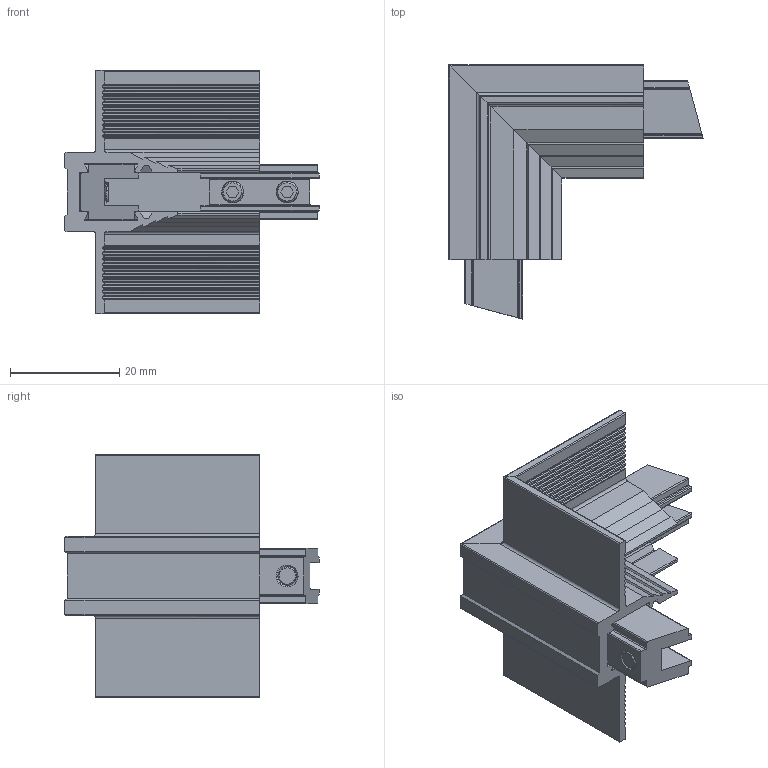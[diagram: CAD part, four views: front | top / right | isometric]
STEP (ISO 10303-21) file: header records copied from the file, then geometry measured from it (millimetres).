
FILE_DESCRIPTION((''),'2;1');
FILE_NAME('KC-0006-96_ASM','2025-08-01T15:30:35',('YF-06'),(''),'CREO PARAMETRIC BY PTC INC, 2022073','CREO PARAMETRIC BY PTC INC, 2022073','');
FILE_SCHEMA(('CONFIG_CONTROL_DESIGN','SHAPE_APPEARANCE_LAYERS_GROUPS'));
Length unit declared in the file: millimetre
Products named in the file (4): KC-0006-0072; KC-0006-0014; M4_5; KC-0006-96_ASM
Assembly tree (8 placements, depth 2):
  KC-0006-96_ASM
    KC-0006-0072  x2
    KC-0006-0014  x2
    M4_5  x4
Bounding box: 46.54 x 46.54 x 44.5 mm (x, y, z)
Volume: 11041.9 mm3; surface area: 13729.9 mm2
Topology: 8 solids, 12 shells, 532 faces, 1508 edges, 996 vertices
Faces by surface type: plane 260, cylinder 220, cone 28, bspline 24
Entity records: 9112 total; most frequent: CARTESIAN_POINT 2677, ORIENTED_EDGE 1344, DIRECTION 1123, EDGE_CURVE 676, VECTOR 453, LINE 453, VERTEX_POINT 447, AXIS2_PLACEMENT_3D 335
